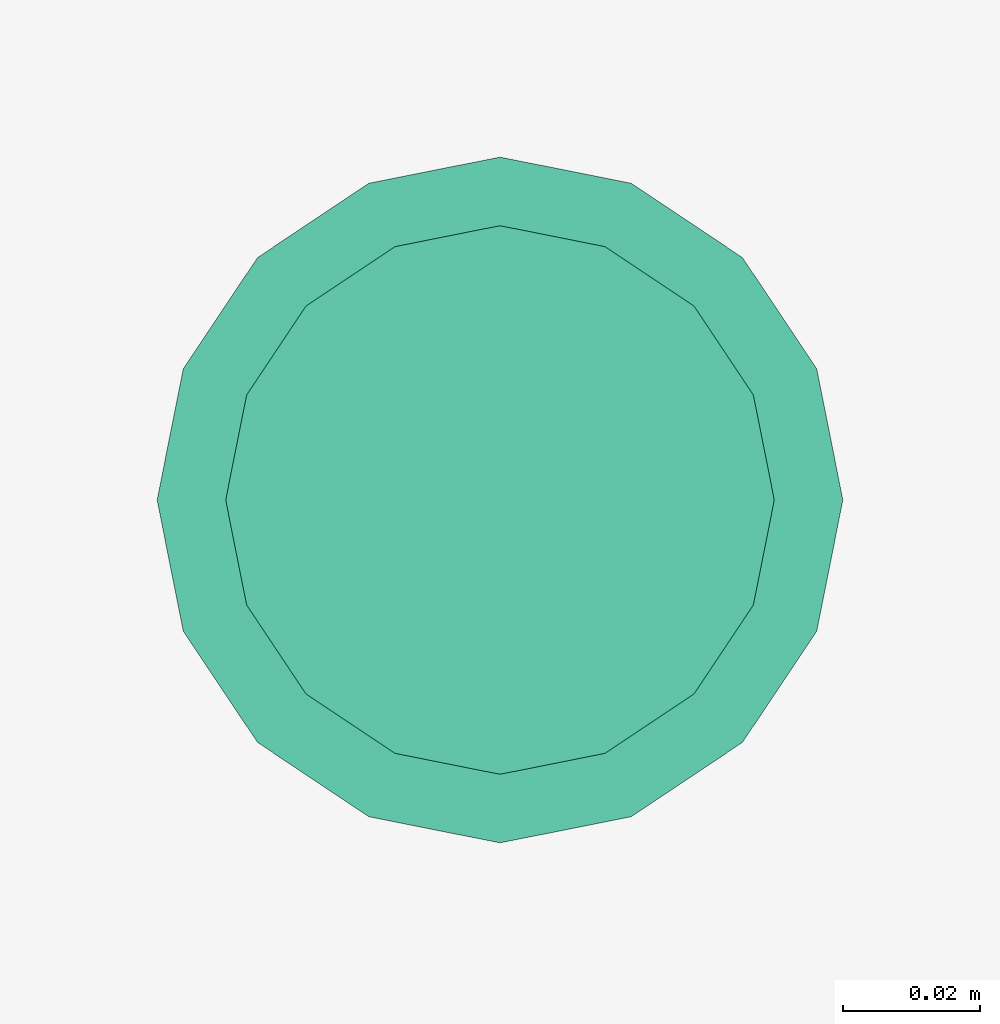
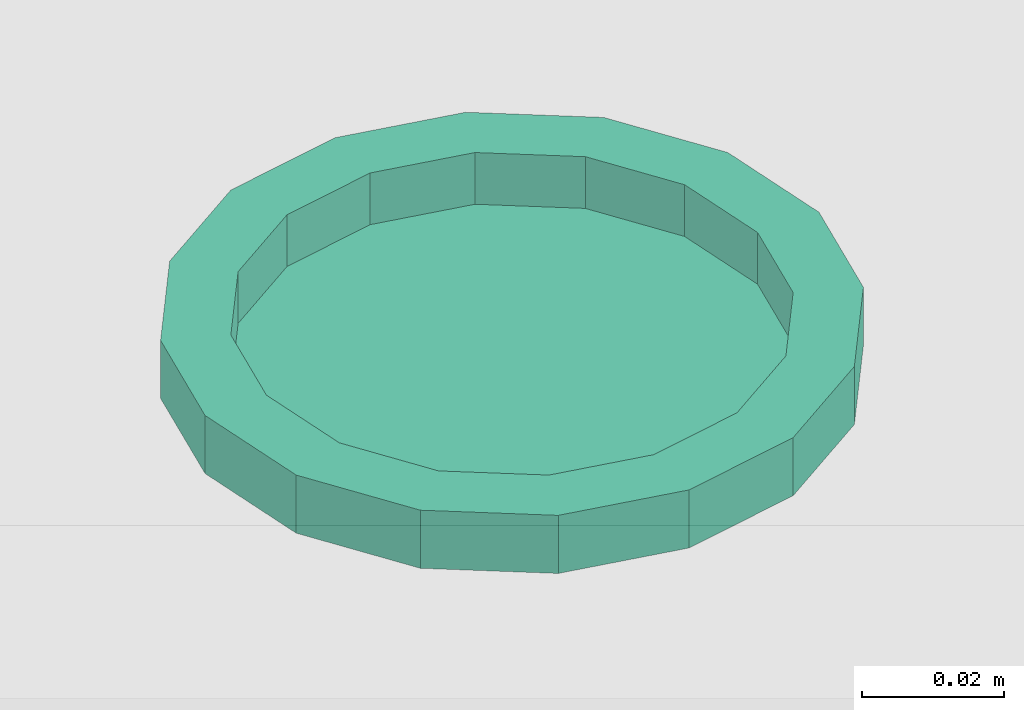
# One storey, part 234 of 347: 1 flow terminal.
"""IFC2X3 building model written with IfcOpenShell, lengths in millimetres."""

from ifc_helpers import new_model, entity, si_unit, converted_unit, derived_unit, money_unit, direction, frame, origin_with_axes, place, context, subcontext, project, spatial, open_shell, faceted_brep, surface_model, source, transform, mapped, type_object, type_shapes, element, save


model = new_model("IFC2X3")

# Units and contexts
model_context = context("Model", 3, precision=0.01, world=origin_with_axes(), true_north=direction((0.0, 1.0)))
plan_context = context("Plan", 3, precision=0.01, world=origin_with_axes(), true_north=direction((0.0, 1.0)))
body_context = subcontext(model_context, "Body", "Model", "MODEL_VIEW")
ifc_project = project(units=[si_unit("LENGTHUNIT", "METRE", prefix="MILLI"), si_unit("AREAUNIT", "SQUARE_METRE"), si_unit("VOLUMEUNIT", "CUBIC_METRE"), converted_unit("PLANEANGLEUNIT", "DEGREE", entity("IfcPlaneAngleMeasure", 0.0174532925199), si_unit("PLANEANGLEUNIT", "RADIAN"), dimensions=[0, 0, 0, 0, 0, 0, 0]), money_unit("EUR"), converted_unit("TIMEUNIT", "Year", entity("IfcTimeMeasure", 31556926.0), si_unit("TIMEUNIT", "SECOND"), dimensions=[0, 0, 1, 0, 0, 0, 0]), si_unit("MASSUNIT", "GRAM", prefix="KILO"), si_unit("THERMODYNAMICTEMPERATUREUNIT", "DEGREE_CELSIUS"), si_unit("LUMINOUSINTENSITYUNIT", "LUMEN"), si_unit("ENERGYUNIT", "JOULE", prefix="MEGA"), derived_unit("THERMALCONDUCTANCEUNIT", [(si_unit("POWERUNIT", "WATT"), 1), (si_unit("LENGTHUNIT", "METRE"), -1), (si_unit("THERMODYNAMICTEMPERATUREUNIT", "KELVIN"), -1)]), derived_unit("SPECIFICHEATCAPACITYUNIT", [(si_unit("ENERGYUNIT", "JOULE"), 1), (si_unit("MASSUNIT", "GRAM", prefix="KILO"), -1), (si_unit("THERMODYNAMICTEMPERATUREUNIT", "KELVIN"), -1)]), derived_unit("MASSDENSITYUNIT", [(si_unit("MASSUNIT", "GRAM", prefix="KILO"), 1), (si_unit("VOLUMEUNIT", "CUBIC_METRE"), -1)])], contexts=[model_context, plan_context])

# Site, building, storey
site_placement = place(None, origin_with_axes())
site = spatial("IfcSite", under=ifc_project, at=site_placement, Name="Site", CompositionType="ELEMENT")
building_placement = place(site_placement, origin_with_axes())
building = spatial("IfcBuilding", under=site, at=building_placement, Name="Naam gebouw", CompositionType="ELEMENT")
storey_placement = place(building_placement, origin_with_axes())
storey = spatial("IfcBuildingStorey", under=building, at=storey_placement, Name="begane grond", CompositionType="ELEMENT", Elevation=0.0)

# Flow terminal
lamp_type = type_object("IfcLampType", Name="Spot plafond 01 25", PredefinedType="NOTDEFINED")
shared_shape = source(origin_with_axes(), body_context, "Body", "SurfaceModel", [
    faceted_brep([(50.0, 0.0, -10.0), (46.1939766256, 19.1341716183, -10.0), (46.1939766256, 19.1341716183, 0.0), (50.0, 0.0, 0.0), (46.1939766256, -19.1341716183, -10.0), (35.3553390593, -35.3553390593, -10.0), (19.1341716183, -46.1939766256, -10.0), (0.0, -50.0, -10.0), (-19.1341716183, -46.1939766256, -10.0), (-35.3553390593, -35.3553390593, -10.0), (-46.1939766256, -19.1341716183, -10.0), (-50.0, 0.0, -10.0), (-46.1939766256, 19.1341716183, -10.0), (-35.3553390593, 35.3553390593, -10.0), (-19.1341716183, 46.1939766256, -10.0), (0.0, 50.0, -10.0), (19.1341716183, 46.1939766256, -10.0), (35.3553390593, 35.3553390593, -10.0), (40.0, 0.0, -10.0), (36.9551813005, 15.3073372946, -10.0), (28.2842712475, 28.2842712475, -10.0), (15.3073372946, 36.9551813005, -10.0), (0.0, 40.0, -10.0), (-15.3073372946, 36.9551813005, -10.0), (-28.2842712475, 28.2842712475, -10.0), (-36.9551813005, 15.3073372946, -10.0), (-40.0, 0.0, -10.0), (-36.9551813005, -15.3073372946, -10.0), (-28.2842712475, -28.2842712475, -10.0), (-15.3073372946, -36.9551813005, -10.0), (0.0, -40.0, -10.0), (15.3073372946, -36.9551813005, -10.0), (28.2842712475, -28.2842712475, -10.0), (36.9551813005, -15.3073372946, -10.0), (35.3553390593, 35.3553390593, 0.0), (19.1341716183, 46.1939766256, 0.0), (0.0, 50.0, 0.0), (-19.1341716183, 46.1939766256, 0.0), (-35.3553390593, 35.3553390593, 0.0), (-46.1939766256, 19.1341716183, 0.0), (-50.0, 0.0, 0.0), (-46.1939766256, -19.1341716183, 0.0), (-35.3553390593, -35.3553390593, 0.0), (-19.1341716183, -46.1939766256, 0.0), (0.0, -50.0, 0.0), (19.1341716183, -46.1939766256, 0.0), (35.3553390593, -35.3553390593, 0.0), (46.1939766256, -19.1341716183, 0.0), (40.0, 0.0, 0.0), (36.9551813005, -15.3073372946, 0.0), (28.2842712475, -28.2842712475, 0.0), (15.3073372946, -36.9551813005, 0.0), (0.0, -40.0, 0.0), (-15.3073372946, -36.9551813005, 0.0), (-28.2842712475, -28.2842712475, 0.0), (-36.9551813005, -15.3073372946, 0.0), (-40.0, 0.0, 0.0), (-36.9551813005, 15.3073372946, 0.0), (-28.2842712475, 28.2842712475, 0.0), (-15.3073372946, 36.9551813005, 0.0), (0.0, 40.0, 0.0), (15.3073372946, 36.9551813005, 0.0), (28.2842712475, 28.2842712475, 0.0), (36.9551813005, 15.3073372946, 0.0)], [[[0, 1, 2, 3]], [[0, 4, 5, 6, 7, 8, 9, 10, 11, 12, 13, 14, 15, 16, 17, 1], [18, 19, 20, 21, 22, 23, 24, 25, 26, 27, 28, 29, 30, 31, 32, 33]], [[1, 17, 34, 2]], [[3, 2, 34, 35, 36, 37, 38, 39, 40, 41, 42, 43, 44, 45, 46, 47], [48, 49, 50, 51, 52, 53, 54, 55, 56, 57, 58, 59, 60, 61, 62, 63]], [[4, 0, 3, 47]], [[5, 4, 47, 46]], [[6, 5, 46, 45]], [[7, 6, 45, 44]], [[8, 7, 44, 43]], [[9, 8, 43, 42]], [[10, 9, 42, 41]], [[11, 10, 41, 40]], [[12, 11, 40, 39]], [[13, 12, 39, 38]], [[14, 13, 38, 37]], [[15, 14, 37, 36]], [[16, 15, 36, 35]], [[17, 16, 35, 34]], [[19, 18, 48, 63]], [[20, 19, 63, 62]], [[21, 20, 62, 61]], [[22, 21, 61, 60]], [[23, 22, 60, 59]], [[24, 23, 59, 58]], [[25, 24, 58, 57]], [[26, 25, 57, 56]], [[27, 26, 56, 55]], [[28, 27, 55, 54]], [[29, 28, 54, 53]], [[30, 29, 53, 52]], [[31, 30, 52, 51]], [[32, 31, 51, 50]], [[33, 32, 50, 49]], [[18, 33, 49, 48]]]),
    surface_model("IfcShellBasedSurfaceModel", [(40.0, 0.0, -8.9), (36.9551813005, -15.3073372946, -8.9), (28.2842712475, -28.2842712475, -8.9), (15.3073372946, -36.9551813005, -8.9), (0.0, -40.0, -8.9), (-15.3073372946, -36.9551813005, -8.9), (-28.2842712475, -28.2842712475, -8.9), (-36.9551813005, -15.3073372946, -8.9), (-40.0, 0.0, -8.9), (-36.9551813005, 15.3073372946, -8.9), (-28.2842712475, 28.2842712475, -8.9), (-15.3073372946, 36.9551813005, -8.9), (0.0, 40.0, -8.9), (15.3073372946, 36.9551813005, -8.9), (28.2842712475, 28.2842712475, -8.9), (36.9551813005, 15.3073372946, -8.9)], [open_shell([[[0, 1, 2, 3, 4, 5, 6, 7, 8, 9, 10, 11, 12, 13, 14, 15]]])]),
])
type_shapes(lamp_type, [shared_shape])
flow_terminal_placement = place(storey_placement, frame((33995.0, 33824.9999638, 3000.0), z_axis=(0.0, 0.0, 1.0), x_axis=(1.0, 0.0, 0.0)))
element("IfcFlowTerminal", 1, at=flow_terminal_placement, inside=storey, type_object=lamp_type, Name="63_Lamp-x", ObjectType="Lamp", context=body_context, shape_type="MappedRepresentation", body=[
    mapped(shared_shape, transform((0.0, 0.0, 0.0))),
])

save(model, "model.ifc")
